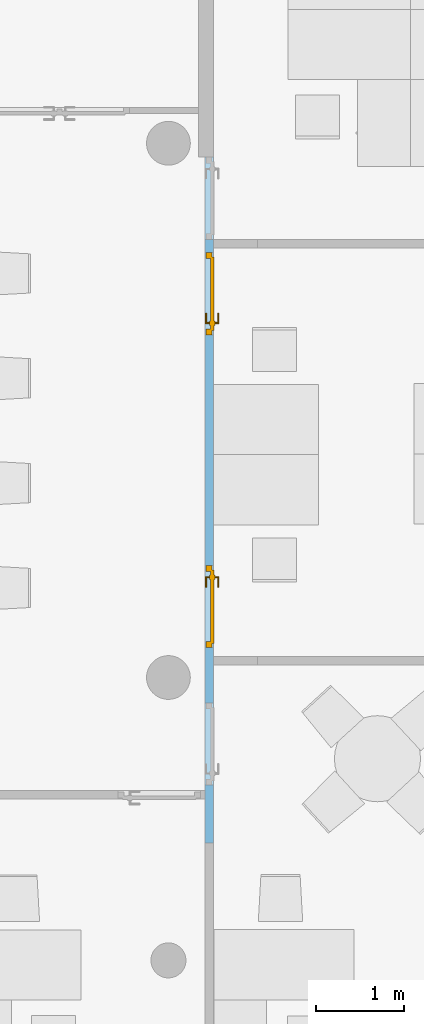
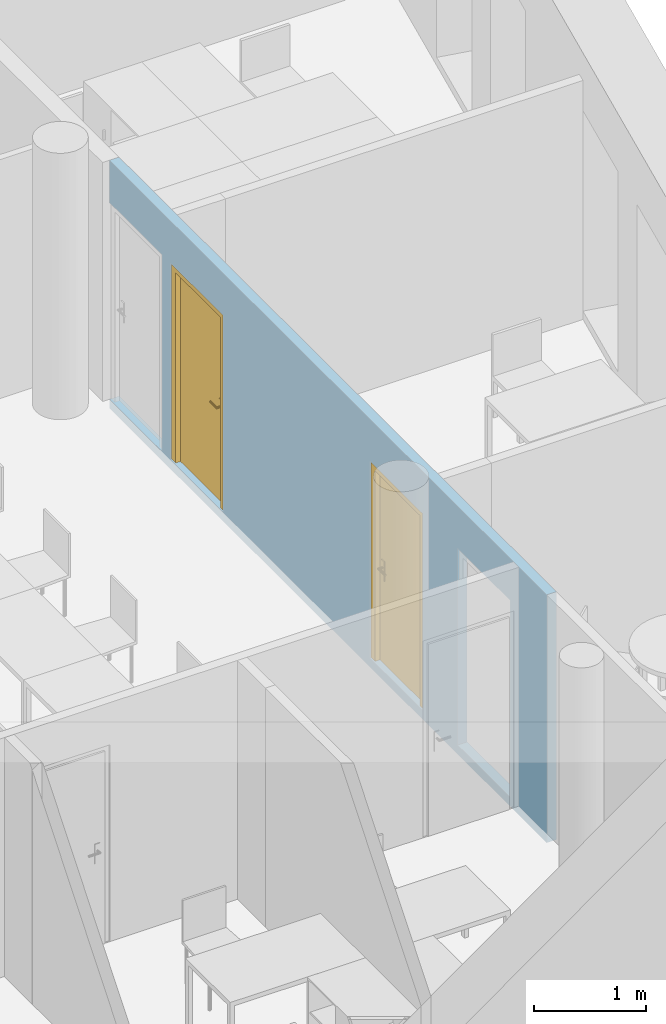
"""IFC4 building model written with IfcOpenShell, lengths in metres."""

from ifc_helpers import new_model, entity, si_unit, converted_unit, derived_unit, frame, frame_2d, origin, origin_with_axes, place, context, subcontext, project, spatial, polyline, rectangle, outline, extrude, faceted_brep, source, transform, mapped, material, layer, layer_set, layer_usage, element, fill, save


model = new_model("IFC4")

# Units and contexts
model_context = context("Model", 3, precision=1e-05, world=origin())
body_context = subcontext(model_context, "Body", "Model", "MODEL_VIEW")
ifc_project = project(units=[si_unit("LENGTHUNIT", "METRE"), si_unit("AREAUNIT", "SQUARE_METRE"), si_unit("VOLUMEUNIT", "CUBIC_METRE"), si_unit("MASSUNIT", "GRAM", prefix="KILO"), converted_unit("PLANEANGLEUNIT", "DEGREE", entity("IfcPlaneAngleMeasure", 0.0174532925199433), si_unit("PLANEANGLEUNIT", "RADIAN"), dimensions=[0, 0, 0, 0, 0, 0, 0]), derived_unit("THERMALTRANSMITTANCEUNIT", [(si_unit("POWERUNIT", "WATT"), 1), (si_unit("THERMODYNAMICTEMPERATUREUNIT", "KELVIN"), -1), (si_unit("LENGTHUNIT", "METRE"), -2)]), derived_unit("VOLUMETRICFLOWRATEUNIT", [(si_unit("LENGTHUNIT", "METRE"), 3), (converted_unit("TIMEUNIT", "hour", entity("IfcTimeMeasure", 3600.0), si_unit("TIMEUNIT", "SECOND"), dimensions=[0, 0, 1, 0, 0, 0, 0]), -1), (si_unit("LENGTHUNIT", "METRE"), -1)])], contexts=[model_context])

# Building, storeys
building_placement = place(None, origin())
building = spatial("IfcBuilding", under=ifc_project, at=building_placement, Name="HABITATGE PLURIFAMILIAR", CompositionType="ELEMENT")
storey_1_placement = place(building_placement, frame((0.0, 0.0, 6.25)))
storey_1 = spatial("IfcBuildingStorey", under=building, at=storey_1_placement, Name="PLANTA PRIMERA", CompositionType="ELEMENT", Elevation=6.25)
storey_2_placement = place(storey_1_placement, frame((0.0, 0.0, 3.35)))
storey_2 = spatial("IfcBuildingStorey", under=storey_1, at=storey_2_placement, Name="NOU", CompositionType="PARTIAL")

# Wall, openings, doors
ifc_material = material()
ifc_layer = layer(ifc_material, 0.1)
ifc_layer_set = layer_set([ifc_layer])
ifc_layer_usage = layer_usage(ifc_layer_set, "AXIS2", "POSITIVE", 0.0)
wall_placement = place(storey_2_placement, frame((421.406984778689, 23.7407426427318, -3.45), z_axis=(0.0, 0.0, 1.0), x_axis=(-2.97388239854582e-14, -1.0, 0.0)))
wall = element("IfcWall", 1, at=wall_placement, inside=storey_2, material=ifc_layer_usage, Name="Mampara P1", context=body_context, shape_type="SweptSolid", body=[
    extrude(rectangle(XDim=7.82918126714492, YDim=0.1, at=frame_2d((3.91459063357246, 0.05), x_axis=(1.0, 0.0))), origin_with_axes(), (0.0, 0.0, 1.0), 2.71),
])
opening_1_placement = place(wall_placement, frame((0.940000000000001, 0.100000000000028, 0.1), z_axis=(2.95585778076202e-14, -1.0, 0.0), x_axis=(0.0, 0.0, 1.0)))
element("IfcOpeningElement", 2, at=opening_1_placement, cuts=wall, Name="Vano de puerta P1", ObjectType="Opening", context=body_context, shape_type="SweptSolid", body=[
    extrude(outline(polyline([(2.15, 0.940000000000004), (2.15, 0.0), (0.0, 0.0), (0.0, 0.940000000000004), (2.15, 0.940000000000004)])), origin_with_axes(), (0.0, 0.0, 1.0), 0.1),
])
opening_2_placement = place(wall_placement, frame((7.17128276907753, 0.0999999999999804, 0.1), z_axis=(-4.54747350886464e-14, -1.0, 0.0), x_axis=(0.0, 0.0, 1.0)))
element("IfcOpeningElement", 3, at=opening_2_placement, cuts=wall, Name="Vano de puerta P1", ObjectType="Opening", context=body_context, shape_type="SweptSolid", body=[
    extrude(outline(polyline([(2.15, 0.94), (2.15, 0.0), (0.0, 0.0), (0.0, 0.94), (2.15, 0.94)])), origin_with_axes(), (0.0, 0.0, 1.0), 0.1),
])
opening_3_placement = place(wall_placement, frame((2.03, 0.099999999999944, 0.1), z_axis=(-4.32009983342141e-14, -1.0, 0.0), x_axis=(0.0, 0.0, 1.0)))
opening_3 = element("IfcOpeningElement", 4, at=opening_3_placement, cuts=wall, Name="Vano de puerta P1", ObjectType="Opening", context=body_context, shape_type="SweptSolid", body=[
    extrude(outline(polyline([(2.15, 0.94), (2.15, 0.0), (0.0, 0.0), (0.0, 0.94), (2.15, 0.94)])), origin_with_axes(), (0.0, 0.0, 1.0), 0.1),
])
opening_4_placement = place(wall_placement, frame((5.60128276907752, 0.099999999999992, 0.1), z_axis=(2.72848410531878e-14, -1.0, 0.0), x_axis=(0.0, 0.0, 1.0)))
opening_4 = element("IfcOpeningElement", 5, at=opening_4_placement, cuts=wall, Name="Vano de puerta P1", ObjectType="Opening", context=body_context, shape_type="SweptSolid", body=[
    extrude(outline(polyline([(2.15, 0.94), (2.15, 0.0), (0.0, 0.0), (0.0, 0.94), (2.15, 0.94)])), origin_with_axes(), (0.0, 0.0, 1.0), 0.1),
])
shared_shape_1 = source(origin_with_axes(), body_context, "Body", "Brep", [
    faceted_brep([(0.940000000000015, 0.0699999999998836, 2.15), (0.870000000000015, 0.0699999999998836, 2.15), (0.870000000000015, 0.0699999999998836, 0.0), (0.940000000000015, 0.0699999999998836, 0.0), (0.940000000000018, 0.0, 0.0), (0.870000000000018, 0.0, 0.0), (0.870000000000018, 0.0, 2.15), (0.940000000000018, 0.0, 2.15)], [[[0, 1, 2, 3]], [[4, 5, 6, 7]], [[3, 4, 7, 0]], [[2, 5, 4, 3]], [[1, 6, 5, 2]], [[0, 7, 6, 1]]], orient=[[False], [False], [False], [False], [False], [False]]),
    faceted_brep([(0.0700000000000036, 0.0699999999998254, 2.15), (0.0, 0.0699999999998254, 2.15), (0.0, 0.0699999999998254, 0.0), (0.0700000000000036, 0.0699999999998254, 0.0), (0.0700000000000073, 0.0, 0.0), (0.0, 0.0, 0.0), (0.0, 0.0, 2.15), (0.0700000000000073, 0.0, 2.15)], [[[0, 1, 2, 3]], [[4, 5, 6, 7]], [[3, 4, 7, 0]], [[2, 5, 4, 3]], [[1, 6, 5, 2]], [[0, 7, 6, 1]]], orient=[[False], [False], [False], [False], [False], [False]]),
    faceted_brep([(0.870000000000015, 0.0699999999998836, 2.15), (0.0700000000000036, 0.0699999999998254, 2.15), (0.0700000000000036, 0.0699999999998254, 2.08), (0.870000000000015, 0.0699999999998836, 2.08), (0.870000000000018, 0.0, 2.08), (0.0700000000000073, 0.0, 2.08), (0.0700000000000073, 0.0, 2.15), (0.870000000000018, 0.0, 2.15)], [[[0, 1, 2, 3]], [[4, 5, 6, 7]], [[3, 4, 7, 0]], [[2, 5, 4, 3]], [[1, 6, 5, 2]], [[0, 7, 6, 1]]], orient=[[False], [False], [False], [False], [False], [False]]),
    faceted_brep([(0.890000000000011, 0.0899999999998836, 2.1), (0.05, 0.0899999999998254, 2.1), (0.05, 0.0899999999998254, 0.0), (0.890000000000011, 0.0899999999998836, 0.0), (0.890000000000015, 0.0499999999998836, 0.0), (0.0500000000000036, 0.0499999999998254, 0.0), (0.0500000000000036, 0.0499999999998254, 2.1), (0.890000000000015, 0.0499999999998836, 2.1)], [[[0, 1, 2, 3]], [[4, 5, 6, 7]], [[3, 4, 7, 0]], [[2, 5, 4, 3]], [[1, 6, 5, 2]], [[0, 7, 6, 1]]], orient=[[False], [False], [False], [False], [False], [False]]),
    faceted_brep([(0.830000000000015, 0.0499999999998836, 1.125), (0.780000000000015, 0.0499999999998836, 1.125), (0.780000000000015, 0.0499999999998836, 0.91), (0.830000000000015, 0.0499999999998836, 0.91), (0.830000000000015, 0.0399999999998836, 0.91), (0.780000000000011, 0.0399999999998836, 0.91), (0.780000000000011, 0.0399999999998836, 1.125), (0.830000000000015, 0.0399999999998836, 1.125)], [[[0, 1, 2, 3]], [[4, 5, 6, 7]], [[3, 4, 7, 0]], [[2, 5, 4, 3]], [[1, 6, 5, 2]], [[0, 7, 6, 1]]], orient=[[False], [False], [False], [False], [False], [False]]),
    faceted_brep([(0.805000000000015, 0.0399999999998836, 1.06), (0.800000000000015, 0.0399999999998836, 1.05866025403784), (0.79633974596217, 0.0399999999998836, 1.055), (0.795000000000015, 0.0399999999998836, 1.05), (0.79633974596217, 0.0399999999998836, 1.045), (0.800000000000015, 0.0399999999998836, 1.04133974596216), (0.805000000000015, 0.0399999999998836, 1.04), (0.810000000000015, 0.0399999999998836, 1.04133974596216), (0.813660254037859, 0.0399999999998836, 1.045), (0.815000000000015, 0.0399999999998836, 1.05), (0.813660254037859, 0.0399999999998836, 1.055), (0.810000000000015, 0.0399999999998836, 1.05866025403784), (0.810000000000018, -0.00500000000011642, 1.05866025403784), (0.805000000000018, 0.0, 1.06), (0.813660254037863, -0.00866025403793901, 1.055), (0.815000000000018, -0.0100000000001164, 1.05), (0.813660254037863, -0.00866025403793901, 1.045), (0.810000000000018, -0.00500000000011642, 1.04133974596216), (0.805000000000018, 0.0, 1.04), (0.800000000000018, 0.00499999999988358, 1.04133974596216), (0.796339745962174, 0.00866025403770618, 1.045), (0.795000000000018, 0.00999999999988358, 1.05), (0.796339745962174, 0.00866025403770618, 1.055), (0.800000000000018, 0.00499999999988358, 1.05866025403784), (0.690000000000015, 0.0, 1.06), (0.690000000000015, -0.00500000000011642, 1.05866025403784), (0.690000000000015, -0.00866025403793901, 1.055), (0.690000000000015, -0.0100000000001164, 1.05), (0.690000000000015, -0.00866025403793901, 1.045), (0.690000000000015, -0.00500000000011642, 1.04133974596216), (0.690000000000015, 0.0, 1.04), (0.690000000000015, 0.00499999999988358, 1.04133974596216), (0.690000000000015, 0.00866025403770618, 1.045), (0.690000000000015, 0.00999999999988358, 1.05), (0.690000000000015, 0.00866025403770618, 1.055), (0.690000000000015, 0.00499999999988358, 1.05866025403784)], [[[0, 1, 2, 3, 4, 5, 6, 7, 8, 9, 10, 11]], [[0, 11, 12, 13]], [[11, 10, 14, 12]], [[10, 9, 15, 14]], [[9, 8, 16, 15]], [[8, 7, 17, 16]], [[7, 6, 18, 17]], [[6, 5, 19, 18]], [[5, 4, 20, 19]], [[4, 3, 21, 20]], [[3, 2, 22, 21]], [[2, 1, 23, 22]], [[1, 0, 13, 23]], [[24, 25, 26, 27, 28, 29, 30, 31, 32, 33, 34, 35]], [[13, 12, 25, 24]], [[12, 14, 26, 25]], [[14, 15, 27, 26]], [[15, 16, 28, 27]], [[16, 17, 29, 28]], [[17, 18, 30, 29]], [[18, 19, 31, 30]], [[19, 20, 32, 31]], [[20, 21, 33, 32]], [[21, 22, 34, 33]], [[22, 23, 35, 34]], [[23, 13, 24, 35]]], orient=[[False], [False], [False], [False], [False], [False], [False], [False], [False], [False], [False], [False], [False], [False], [False], [False], [False], [False], [False], [False], [False], [False], [False], [False], [False], [False]]),
    faceted_brep([(0.830000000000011, 0.0899999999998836, 1.125), (0.830000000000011, 0.0899999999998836, 0.91), (0.780000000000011, 0.0899999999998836, 0.91), (0.780000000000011, 0.0899999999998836, 1.125), (0.830000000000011, 0.0999999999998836, 0.91), (0.830000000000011, 0.0999999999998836, 1.125), (0.780000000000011, 0.0999999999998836, 1.125), (0.780000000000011, 0.0999999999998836, 0.91)], [[[0, 1, 2, 3]], [[4, 5, 6, 7]], [[1, 0, 5, 4]], [[2, 1, 4, 7]], [[3, 2, 7, 6]], [[0, 3, 6, 5]]], orient=[[False], [False], [False], [False], [False], [False]]),
    faceted_brep([(0.805000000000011, 0.0999999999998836, 1.06), (0.810000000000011, 0.0999999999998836, 1.05866025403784), (0.813660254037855, 0.0999999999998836, 1.055), (0.815000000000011, 0.0999999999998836, 1.05), (0.813660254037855, 0.0999999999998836, 1.045), (0.810000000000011, 0.0999999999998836, 1.04133974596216), (0.805000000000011, 0.0999999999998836, 1.04), (0.800000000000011, 0.0999999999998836, 1.04133974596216), (0.796339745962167, 0.0999999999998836, 1.045), (0.795000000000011, 0.0999999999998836, 1.05), (0.796339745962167, 0.0999999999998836, 1.055), (0.800000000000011, 0.0999999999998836, 1.05866025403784), (0.805000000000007, 0.139999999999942, 1.06), (0.810000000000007, 0.144999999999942, 1.05866025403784), (0.813660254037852, 0.148660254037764, 1.055), (0.815000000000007, 0.149999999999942, 1.05), (0.813660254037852, 0.148660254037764, 1.045), (0.810000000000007, 0.144999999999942, 1.04133974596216), (0.805000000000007, 0.139999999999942, 1.04), (0.800000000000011, 0.134999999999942, 1.04133974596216), (0.796339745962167, 0.131339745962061, 1.045), (0.795000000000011, 0.129999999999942, 1.05), (0.796339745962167, 0.131339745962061, 1.055), (0.800000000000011, 0.134999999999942, 1.05866025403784), (0.690000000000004, 0.139999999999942, 1.06), (0.690000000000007, 0.134999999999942, 1.05866025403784), (0.690000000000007, 0.131339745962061, 1.055), (0.690000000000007, 0.129999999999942, 1.05), (0.690000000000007, 0.131339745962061, 1.045), (0.690000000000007, 0.134999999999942, 1.04133974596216), (0.690000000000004, 0.139999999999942, 1.04), (0.690000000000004, 0.144999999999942, 1.04133974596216), (0.690000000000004, 0.148660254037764, 1.045), (0.690000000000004, 0.149999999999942, 1.05), (0.690000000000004, 0.148660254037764, 1.055), (0.690000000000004, 0.144999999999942, 1.05866025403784)], [[[0, 1, 2, 3, 4, 5, 6, 7, 8, 9, 10, 11]], [[0, 12, 13, 1]], [[1, 13, 14, 2]], [[2, 14, 15, 3]], [[3, 15, 16, 4]], [[4, 16, 17, 5]], [[5, 17, 18, 6]], [[6, 18, 19, 7]], [[7, 19, 20, 8]], [[8, 20, 21, 9]], [[9, 21, 22, 10]], [[10, 22, 23, 11]], [[11, 23, 12, 0]], [[24, 25, 26, 27, 28, 29, 30, 31, 32, 33, 34, 35]], [[12, 24, 35, 13]], [[13, 35, 34, 14]], [[14, 34, 33, 15]], [[15, 33, 32, 16]], [[16, 32, 31, 17]], [[17, 31, 30, 18]], [[18, 30, 29, 19]], [[19, 29, 28, 20]], [[20, 28, 27, 21]], [[21, 27, 26, 22]], [[22, 26, 25, 23]], [[23, 25, 24, 12]]], orient=[[False], [False], [False], [False], [False], [False], [False], [False], [False], [False], [False], [False], [False], [False], [False], [False], [False], [False], [False], [False], [False], [False], [False], [False], [False], [False]]),
])
door_1_placement = place(opening_3_placement, frame((0.0, 0.940000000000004, 0.085), z_axis=(1.0, 0.0, 0.0), x_axis=(0.0, -1.0, -1.1016778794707e-14)))
door_1 = element("IfcDoor", 6, at=door_1_placement, inside=storey_2, Name="Porta P1", OperationType="USERDEFINED", OverallHeight=2.15, OverallWidth=0.94, PredefinedType="DOOR", context=body_context, shape_type="MappedRepresentation", body=[
    mapped(shared_shape_1, transform((0.0, 0.0, 0.0), x_axis=(1.0, 0.0, 0.0), y_axis=(0.0, 1.0, 0.0), z_axis=(0.0, 0.0, 1.0), scale=1.0)),
])
fill(opening_3, door_1)
shared_shape_2 = source(origin_with_axes(), body_context, "Body", "Brep", [
    faceted_brep([(0.0, 0.0699999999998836, 2.15), (0.0, 0.0699999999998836, 0.0), (0.07, 0.0699999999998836, 0.0), (0.07, 0.0699999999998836, 2.15), (0.0, 0.0, 0.0), (0.0, 0.0, 2.15), (0.07, 0.0, 2.15), (0.07, 0.0, 0.0)], [[[0, 1, 2, 3]], [[4, 5, 6, 7]], [[1, 0, 5, 4]], [[2, 1, 4, 7]], [[3, 2, 7, 6]], [[0, 3, 6, 5]]], orient=[[False], [False], [False], [False], [False], [False]]),
    faceted_brep([(0.870000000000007, 0.0699999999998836, 2.15), (0.870000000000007, 0.0699999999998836, 0.0), (0.940000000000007, 0.0699999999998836, 0.0), (0.940000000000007, 0.0699999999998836, 2.15), (0.870000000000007, 0.0, 0.0), (0.870000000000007, 0.0, 2.15), (0.940000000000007, 0.0, 2.15), (0.940000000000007, 0.0, 0.0)], [[[0, 1, 2, 3]], [[4, 5, 6, 7]], [[1, 0, 5, 4]], [[2, 1, 4, 7]], [[3, 2, 7, 6]], [[0, 3, 6, 5]]], orient=[[False], [False], [False], [False], [False], [False]]),
    faceted_brep([(0.07, 0.0699999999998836, 2.15), (0.07, 0.0699999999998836, 2.08), (0.870000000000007, 0.0699999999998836, 2.08), (0.870000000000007, 0.0699999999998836, 2.15), (0.07, 0.0, 2.08), (0.07, 0.0, 2.15), (0.870000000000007, 0.0, 2.15), (0.870000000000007, 0.0, 2.08)], [[[0, 1, 2, 3]], [[4, 5, 6, 7]], [[1, 0, 5, 4]], [[2, 1, 4, 7]], [[3, 2, 7, 6]], [[0, 3, 6, 5]]], orient=[[False], [False], [False], [False], [False], [False]]),
    faceted_brep([(0.05, 0.0899999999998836, 2.1), (0.05, 0.0899999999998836, 0.0), (0.890000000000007, 0.0899999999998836, 0.0), (0.890000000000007, 0.0899999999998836, 2.1), (0.05, 0.0499999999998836, 0.0), (0.05, 0.0499999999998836, 2.1), (0.890000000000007, 0.0499999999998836, 2.1), (0.890000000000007, 0.0499999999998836, 0.0)], [[[0, 1, 2, 3]], [[4, 5, 6, 7]], [[1, 0, 5, 4]], [[2, 1, 4, 7]], [[3, 2, 7, 6]], [[0, 3, 6, 5]]], orient=[[False], [False], [False], [False], [False], [False]]),
    faceted_brep([(0.11, 0.0499999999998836, 1.125), (0.11, 0.0499999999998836, 0.91), (0.16, 0.0499999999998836, 0.91), (0.16, 0.0499999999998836, 1.125), (0.11, 0.0399999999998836, 0.91), (0.11, 0.0399999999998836, 1.125), (0.16, 0.0399999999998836, 1.125), (0.16, 0.0399999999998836, 0.91)], [[[0, 1, 2, 3]], [[4, 5, 6, 7]], [[1, 0, 5, 4]], [[2, 1, 4, 7]], [[3, 2, 7, 6]], [[0, 3, 6, 5]]], orient=[[False], [False], [False], [False], [False], [False]]),
    faceted_brep([(0.135, 0.0399999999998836, 1.06), (0.13, 0.0399999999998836, 1.05866025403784), (0.126339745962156, 0.0399999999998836, 1.055), (0.125, 0.0399999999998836, 1.05), (0.126339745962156, 0.0399999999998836, 1.045), (0.13, 0.0399999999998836, 1.04133974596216), (0.135, 0.0399999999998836, 1.04), (0.14, 0.0399999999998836, 1.04133974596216), (0.143660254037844, 0.0399999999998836, 1.045), (0.145, 0.0399999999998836, 1.05), (0.143660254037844, 0.0399999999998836, 1.055), (0.14, 0.0399999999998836, 1.05866025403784), (0.135, 0.0, 1.06), (0.13, -0.00500000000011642, 1.05866025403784), (0.126339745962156, -0.00866025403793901, 1.055), (0.125, -0.0100000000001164, 1.05), (0.126339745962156, -0.00866025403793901, 1.045), (0.13, -0.00500000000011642, 1.04133974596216), (0.135, 0.0, 1.04), (0.14, 0.00499999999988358, 1.04133974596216), (0.143660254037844, 0.00866025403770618, 1.045), (0.145, 0.00999999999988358, 1.05), (0.143660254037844, 0.00866025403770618, 1.055), (0.14, 0.00499999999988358, 1.05866025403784), (0.250000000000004, 0.0, 1.06), (0.250000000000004, 0.00499999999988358, 1.05866025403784), (0.250000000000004, 0.00866025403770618, 1.055), (0.250000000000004, 0.00999999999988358, 1.05), (0.250000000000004, 0.00866025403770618, 1.045), (0.250000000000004, 0.00499999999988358, 1.04133974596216), (0.250000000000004, 0.0, 1.04), (0.250000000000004, -0.00500000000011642, 1.04133974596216), (0.250000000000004, -0.00866025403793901, 1.045), (0.250000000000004, -0.0100000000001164, 1.05), (0.250000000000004, -0.00866025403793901, 1.055), (0.250000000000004, -0.00500000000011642, 1.05866025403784)], [[[0, 1, 2, 3, 4, 5, 6, 7, 8, 9, 10, 11]], [[0, 12, 13, 1]], [[1, 13, 14, 2]], [[2, 14, 15, 3]], [[3, 15, 16, 4]], [[4, 16, 17, 5]], [[5, 17, 18, 6]], [[6, 18, 19, 7]], [[7, 19, 20, 8]], [[8, 20, 21, 9]], [[9, 21, 22, 10]], [[10, 22, 23, 11]], [[11, 23, 12, 0]], [[24, 25, 26, 27, 28, 29, 30, 31, 32, 33, 34, 35]], [[12, 24, 35, 13]], [[13, 35, 34, 14]], [[14, 34, 33, 15]], [[15, 33, 32, 16]], [[16, 32, 31, 17]], [[17, 31, 30, 18]], [[18, 30, 29, 19]], [[19, 29, 28, 20]], [[20, 28, 27, 21]], [[21, 27, 26, 22]], [[22, 26, 25, 23]], [[23, 25, 24, 12]]], orient=[[False], [False], [False], [False], [False], [False], [False], [False], [False], [False], [False], [False], [False], [False], [False], [False], [False], [False], [False], [False], [False], [False], [False], [False], [False], [False]]),
    faceted_brep([(0.11, 0.0899999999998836, 1.125), (0.16, 0.0899999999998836, 1.125), (0.16, 0.0899999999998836, 0.91), (0.11, 0.0899999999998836, 0.91), (0.11, 0.0999999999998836, 0.91), (0.16, 0.0999999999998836, 0.91), (0.16, 0.0999999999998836, 1.125), (0.11, 0.0999999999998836, 1.125)], [[[0, 1, 2, 3]], [[4, 5, 6, 7]], [[3, 4, 7, 0]], [[2, 5, 4, 3]], [[1, 6, 5, 2]], [[0, 7, 6, 1]]], orient=[[False], [False], [False], [False], [False], [False]]),
    faceted_brep([(0.135, 0.0999999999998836, 1.06), (0.14, 0.0999999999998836, 1.05866025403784), (0.143660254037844, 0.0999999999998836, 1.055), (0.145, 0.0999999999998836, 1.05), (0.143660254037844, 0.0999999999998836, 1.045), (0.14, 0.0999999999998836, 1.04133974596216), (0.135, 0.0999999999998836, 1.04), (0.13, 0.0999999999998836, 1.04133974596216), (0.126339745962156, 0.0999999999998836, 1.045), (0.125, 0.0999999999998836, 1.05), (0.126339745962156, 0.0999999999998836, 1.055), (0.13, 0.0999999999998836, 1.05866025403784), (0.13, 0.144999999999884, 1.05866025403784), (0.135, 0.139999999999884, 1.06), (0.126339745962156, 0.148660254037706, 1.055), (0.125, 0.149999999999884, 1.05), (0.126339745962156, 0.148660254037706, 1.045), (0.13, 0.144999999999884, 1.04133974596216), (0.135, 0.139999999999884, 1.04), (0.14, 0.134999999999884, 1.04133974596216), (0.143660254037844, 0.131339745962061, 1.045), (0.145, 0.129999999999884, 1.05), (0.143660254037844, 0.131339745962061, 1.055), (0.14, 0.134999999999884, 1.05866025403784), (0.250000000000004, 0.139999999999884, 1.06), (0.250000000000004, 0.144999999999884, 1.05866025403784), (0.250000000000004, 0.148660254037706, 1.055), (0.250000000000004, 0.149999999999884, 1.05), (0.250000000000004, 0.148660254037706, 1.045), (0.250000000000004, 0.144999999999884, 1.04133974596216), (0.250000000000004, 0.139999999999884, 1.04), (0.250000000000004, 0.134999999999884, 1.04133974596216), (0.250000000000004, 0.131339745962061, 1.045), (0.250000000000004, 0.129999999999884, 1.05), (0.250000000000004, 0.131339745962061, 1.055), (0.250000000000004, 0.134999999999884, 1.05866025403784)], [[[0, 1, 2, 3, 4, 5, 6, 7, 8, 9, 10, 11]], [[0, 11, 12, 13]], [[11, 10, 14, 12]], [[10, 9, 15, 14]], [[9, 8, 16, 15]], [[8, 7, 17, 16]], [[7, 6, 18, 17]], [[6, 5, 19, 18]], [[5, 4, 20, 19]], [[4, 3, 21, 20]], [[3, 2, 22, 21]], [[2, 1, 23, 22]], [[1, 0, 13, 23]], [[24, 25, 26, 27, 28, 29, 30, 31, 32, 33, 34, 35]], [[13, 12, 25, 24]], [[12, 14, 26, 25]], [[14, 15, 27, 26]], [[15, 16, 28, 27]], [[16, 17, 29, 28]], [[17, 18, 30, 29]], [[18, 19, 31, 30]], [[19, 20, 32, 31]], [[20, 21, 33, 32]], [[21, 22, 34, 33]], [[22, 23, 35, 34]], [[23, 13, 24, 35]]], orient=[[False], [False], [False], [False], [False], [False], [False], [False], [False], [False], [False], [False], [False], [False], [False], [False], [False], [False], [False], [False], [False], [False], [False], [False], [False], [False]]),
])
door_2_placement = place(opening_4_placement, frame((0.0, 0.939999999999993, 0.085), z_axis=(1.0, 0.0, 0.0), x_axis=(0.0, -1.0, -2.45398293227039e-15)))
door_2 = element("IfcDoor", 7, at=door_2_placement, inside=storey_2, Name="Porta P1", OperationType="USERDEFINED", OverallHeight=2.15, OverallWidth=0.94, PredefinedType="DOOR", context=body_context, shape_type="MappedRepresentation", body=[
    mapped(shared_shape_2, transform((0.0, 0.0, 0.0), x_axis=(1.0, 0.0, 0.0), y_axis=(0.0, 1.0, 0.0), z_axis=(0.0, 0.0, 1.0), scale=1.0)),
])
fill(opening_4, door_2)

save(model, "model.ifc")
